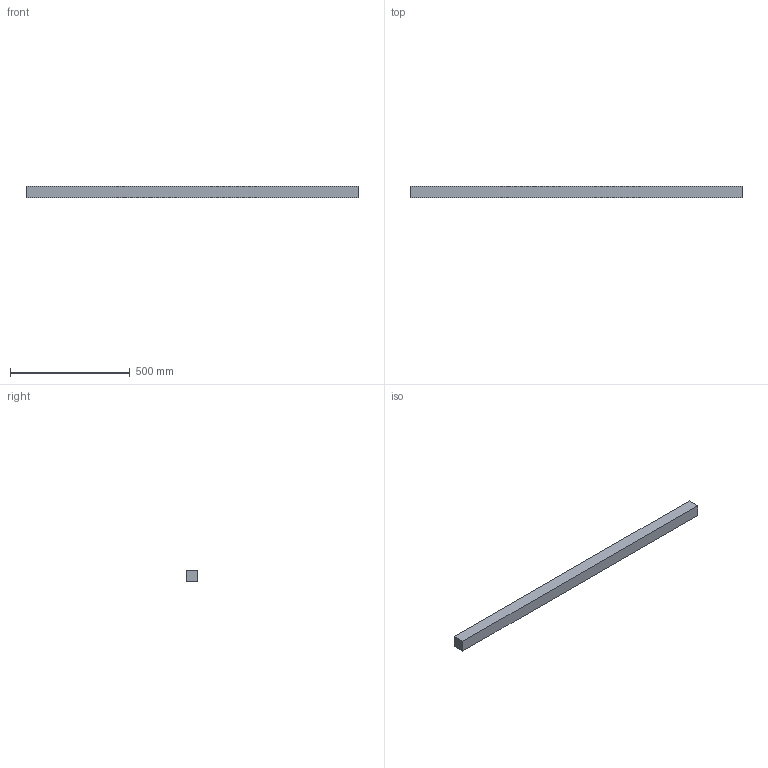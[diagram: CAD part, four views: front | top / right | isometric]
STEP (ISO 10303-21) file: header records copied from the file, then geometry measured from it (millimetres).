
FILE_DESCRIPTION(('Open CASCADE Model'),'2;1');
FILE_NAME('Open CASCADE Shape Model','2026-09-28T10:14:08',('Author'),( 'Open CASCADE'),'Open CASCADE STEP processor 7.9','Open CASCADE 7.9' ,'Unknown');
FILE_SCHEMA(('AUTOMOTIVE_DESIGN { 1 0 10303 214 1 1 1 1 }'));
Length unit declared in the file: millimetre
Products named in the file (1): Open CASCADE STEP translator 7.9 22
Bounding box: 1389 x 50 x 50 mm (x, y, z)
Volume: 3472500 mm3; surface area: 282800 mm2
Topology: 1 solids, 1 shells, 6 faces, 12 edges, 8 vertices
Faces by surface type: plane 6
Entity records: 322 total; most frequent: CARTESIAN_POINT 51, DIRECTION 50, LINE 36, VECTOR 36, ORIENTED_EDGE 24, PCURVE 24, DEFINITIONAL_REPRESENTATION 24, EDGE_CURVE 12
